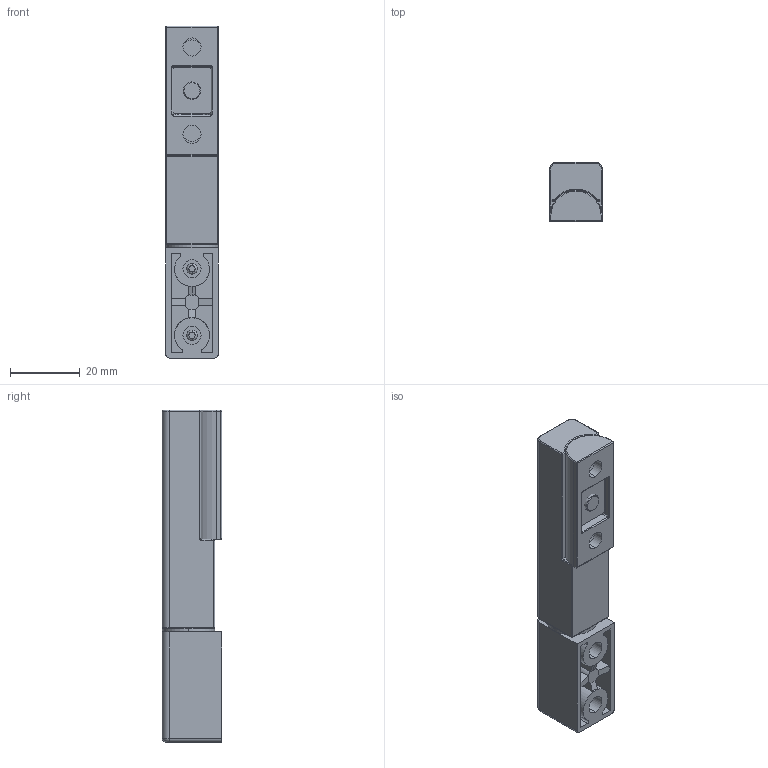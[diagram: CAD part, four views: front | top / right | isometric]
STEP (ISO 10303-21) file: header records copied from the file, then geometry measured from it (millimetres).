
FILE_DESCRIPTION (( 'STEP AP214' ), '1' );
FILE_NAME ('SK2-062.STEP', '2020-04-14T02:40:55', ( 'admin' ), ( 'Microsoft' ), 'SwSTEP 2.0', 'SolidWorks 2018', '' );
FILE_SCHEMA (( 'AUTOMOTIVE_DESIGN' ));
Length unit declared in the file: millimetre
Products named in the file (8): 2-062-F3; 2-062-F2; 2-062-F1; SK2-062; hexagon socket head cap screws gb_GB_FASTENER_SCREWS_HSHCS M5X10-C; 2-062-F6; 2-062-F5; 2-062-F4
Assembly tree (9 placements, depth 2):
  SK2-062
    2-062-F1
    2-062-F2
    2-062-F3
    2-062-F4
    2-062-F5
    2-062-F6  x3
    hexagon socket head cap screws gb_GB_FASTENER_SCREWS_HSHCS M5X10-C
Bounding box: 15 x 17 x 95 mm (x, y, z)
Volume: 16674.7 mm3; surface area: 14967.7 mm2
Topology: 9 solids, 9 shells, 337 faces, 788 edges, 459 vertices
Faces by surface type: cylinder 141, plane 100, torus 45, sphere 22, bspline 20, cone 9
Entity records: 12823 total; most frequent: CARTESIAN_POINT 5156, DIRECTION 1644, ORIENTED_EDGE 1460, EDGE_CURVE 730, AXIS2_PLACEMENT_3D 666, VERTEX_POINT 439, CIRCLE 355, EDGE_LOOP 349
